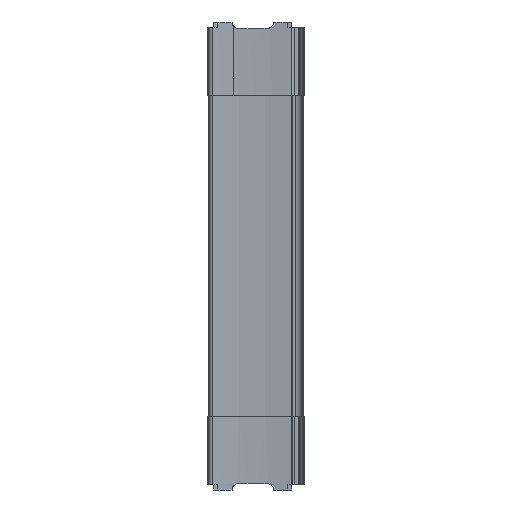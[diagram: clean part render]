
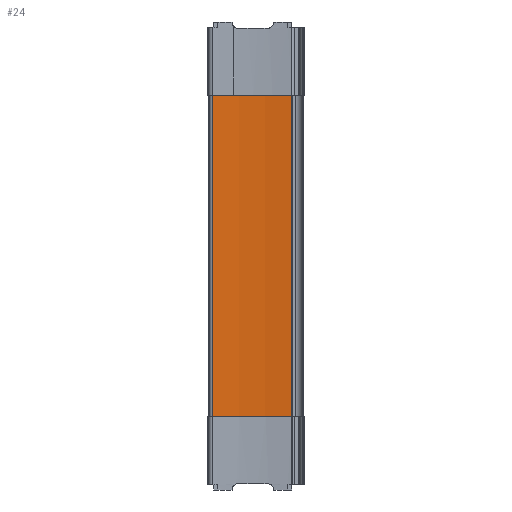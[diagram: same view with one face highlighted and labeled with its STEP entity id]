
A CAD part, left-side view. The second image highlights one B-rep face of the part: STEP entity #24.
In plain terms, the highlighted cylindrical face has radius 250 mm (diameter 500 mm), a partial arc.
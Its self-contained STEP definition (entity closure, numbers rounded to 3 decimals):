
#24 = ADVANCED_FACE ( 'NONE', ( #1885 ), #1882, .F. ) ;
#243 = AXIS2_PLACEMENT_3D ( 'NONE', #2004, #2003, #2002 ) ;
#375 = AXIS2_PLACEMENT_3D ( 'NONE', #2941, #2943, #2944 ) ;
#461 = AXIS2_PLACEMENT_3D ( 'NONE', #4033, #4035, #4036 ) ;
#534 = EDGE_CURVE ( 'NONE', #2305, #2245, #1516, .T. ) ;
#700 = EDGE_LOOP ( 'NONE', ( #1253, #1252, #1251, #1250 ) ) ;
#1250 = ORIENTED_EDGE ( 'NONE', *, *, #4282, .T. ) ;
#1251 = ORIENTED_EDGE ( 'NONE', *, *, #534, .F. ) ;
#1252 = ORIENTED_EDGE ( 'NONE', *, *, #4311, .F. ) ;
#1253 = ORIENTED_EDGE ( 'NONE', *, *, #4308, .F. ) ;
#1516 = CIRCLE ( 'NONE', #375, 250. ) ;
#1882 = CYLINDRICAL_SURFACE ( 'NONE', #243, 250. ) ;
#1885 = FACE_OUTER_BOUND ( 'NONE', #700, .T. ) ;
#2002 = DIRECTION ( 'NONE',  ( -1., 0., 0. ) ) ;
#2003 = DIRECTION ( 'NONE',  ( 0., 0., -1. ) ) ;
#2004 = CARTESIAN_POINT ( 'NONE',  ( -255.319, 48.963, 118.5 ) ) ;
#2245 = VERTEX_POINT ( 'NONE', #3690 ) ;
#2251 = VERTEX_POINT ( 'NONE', #3696 ) ;
#2305 = VERTEX_POINT ( 'NONE', #3750 ) ;
#2332 = VERTEX_POINT ( 'NONE', #3777 ) ;
#2941 = CARTESIAN_POINT ( 'NONE',  ( -255.319, 48.963, 112.5 ) ) ;
#2943 = DIRECTION ( 'NONE',  ( 0., 0., -1. ) ) ;
#2944 = DIRECTION ( 'NONE',  ( 1., 0., 0. ) ) ;
#3317 = VECTOR ( 'NONE', #3954, 1000. ) ;
#3320 = LINE ( 'NONE', #3953, #3317 ) ;
#3365 = CIRCLE ( 'NONE', #461, 250. ) ;
#3366 = LINE ( 'NONE', #4034, #3368 ) ;
#3368 = VECTOR ( 'NONE', #4042, 1000. ) ;
#3690 = CARTESIAN_POINT ( 'NONE',  ( -8.643, 8.331, 112.5 ) ) ;
#3696 = CARTESIAN_POINT ( 'NONE',  ( -8.643, 8.331, -112.5 ) ) ;
#3750 = CARTESIAN_POINT ( 'NONE',  ( -5.747, 63.571, 112.5 ) ) ;
#3777 = CARTESIAN_POINT ( 'NONE',  ( -5.747, 63.571, -112.5 ) ) ;
#3953 = CARTESIAN_POINT ( 'NONE',  ( -5.747, 63.571, 118.5 ) ) ;
#3954 = DIRECTION ( 'NONE',  ( 0., 0., -1. ) ) ;
#4033 = CARTESIAN_POINT ( 'NONE',  ( -255.319, 48.963, -112.5 ) ) ;
#4034 = CARTESIAN_POINT ( 'NONE',  ( -8.643, 8.331, 118.5 ) ) ;
#4035 = DIRECTION ( 'NONE',  ( 0., 0., 1. ) ) ;
#4036 = DIRECTION ( 'NONE',  ( -1., 0., 0. ) ) ;
#4042 = DIRECTION ( 'NONE',  ( 0., 0., -1. ) ) ;
#4282 = EDGE_CURVE ( 'NONE', #2305, #2332, #3320, .T. ) ;
#4308 = EDGE_CURVE ( 'NONE', #2251, #2332, #3365, .T. ) ;
#4311 = EDGE_CURVE ( 'NONE', #2245, #2251, #3366, .T. ) ;
